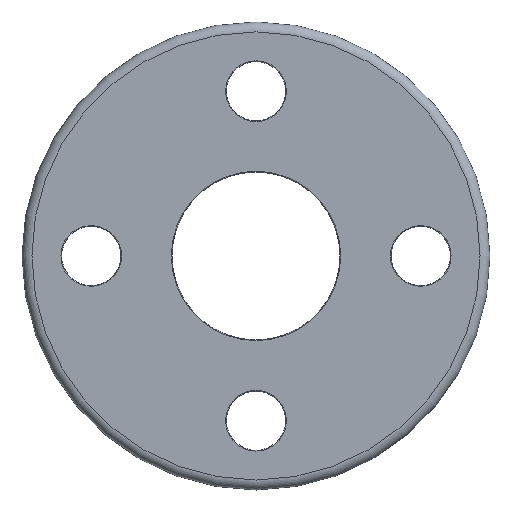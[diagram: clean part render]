
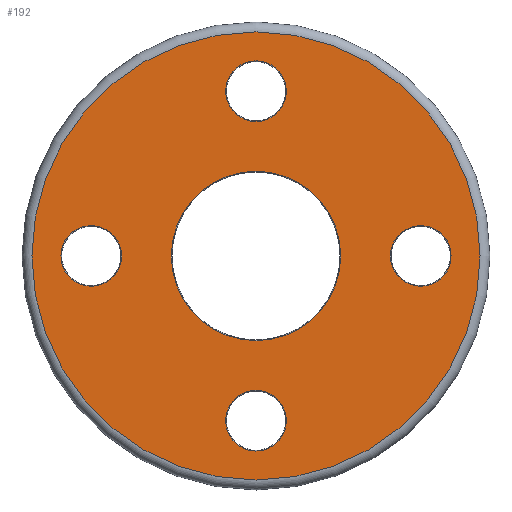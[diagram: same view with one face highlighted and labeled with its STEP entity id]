
A CAD part, top view. The second image highlights one B-rep face of the part: STEP entity #192.
In plain terms, the highlighted planar face has unit normal (0, 0, 1).
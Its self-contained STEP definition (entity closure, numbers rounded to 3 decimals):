
#21=PLANE('',#210);
#24=FACE_BOUND('',#62,.T.);
#25=FACE_BOUND('',#63,.T.);
#26=FACE_BOUND('',#64,.T.);
#27=FACE_BOUND('',#65,.T.);
#28=FACE_BOUND('',#66,.T.);
#46=FACE_OUTER_BOUND('',#61,.T.);
#61=EDGE_LOOP('',(#151));
#62=EDGE_LOOP('',(#152));
#63=EDGE_LOOP('',(#153));
#64=EDGE_LOOP('',(#154));
#65=EDGE_LOOP('',(#155));
#66=EDGE_LOOP('',(#156));
#96=CIRCLE('',#209,25.7);
#97=CIRCLE('',#211,68.);
#98=CIRCLE('',#212,9.2);
#99=CIRCLE('',#213,9.2);
#100=CIRCLE('',#214,9.2);
#101=CIRCLE('',#215,9.2);
#114=VERTEX_POINT('',#309);
#115=VERTEX_POINT('',#312);
#116=VERTEX_POINT('',#314);
#117=VERTEX_POINT('',#316);
#118=VERTEX_POINT('',#318);
#119=VERTEX_POINT('',#320);
#132=EDGE_CURVE('',#114,#114,#96,.T.);
#133=EDGE_CURVE('',#115,#115,#97,.T.);
#134=EDGE_CURVE('',#116,#116,#98,.T.);
#135=EDGE_CURVE('',#117,#117,#99,.T.);
#136=EDGE_CURVE('',#118,#118,#100,.T.);
#137=EDGE_CURVE('',#119,#119,#101,.T.);
#151=ORIENTED_EDGE('',*,*,#133,.F.);
#152=ORIENTED_EDGE('',*,*,#134,.F.);
#153=ORIENTED_EDGE('',*,*,#135,.F.);
#154=ORIENTED_EDGE('',*,*,#136,.F.);
#155=ORIENTED_EDGE('',*,*,#137,.F.);
#156=ORIENTED_EDGE('',*,*,#132,.F.);
#192=ADVANCED_FACE('',(#46,#24,#25,#26,#27,#28),#21,.T.);
#209=AXIS2_PLACEMENT_3D('',#310,#245,#246);
#210=AXIS2_PLACEMENT_3D('',#311,#247,#248);
#211=AXIS2_PLACEMENT_3D('',#313,#249,#250);
#212=AXIS2_PLACEMENT_3D('',#315,#251,#252);
#213=AXIS2_PLACEMENT_3D('',#317,#253,#254);
#214=AXIS2_PLACEMENT_3D('',#319,#255,#256);
#215=AXIS2_PLACEMENT_3D('',#321,#257,#258);
#245=DIRECTION('center_axis',(0.,0.,1.));
#246=DIRECTION('ref_axis',(-1.,0.,0.));
#247=DIRECTION('center_axis',(0.,0.,1.));
#248=DIRECTION('ref_axis',(1.,0.,0.));
#249=DIRECTION('center_axis',(0.,0.,-1.));
#250=DIRECTION('ref_axis',(-1.,0.,0.));
#251=DIRECTION('center_axis',(0.,0.,1.));
#252=DIRECTION('ref_axis',(1.,0.,0.));
#253=DIRECTION('center_axis',(0.,0.,1.));
#254=DIRECTION('ref_axis',(-1.,0.,0.));
#255=DIRECTION('center_axis',(0.,0.,1.));
#256=DIRECTION('ref_axis',(0.,-1.,0.));
#257=DIRECTION('center_axis',(0.,0.,1.));
#258=DIRECTION('ref_axis',(0.,1.,0.));
#309=CARTESIAN_POINT('',(25.7,0.,15.));
#310=CARTESIAN_POINT('Origin',(0.,0.,15.));
#311=CARTESIAN_POINT('Origin',(0.,0.,
15.));
#312=CARTESIAN_POINT('',(68.,0.,15.));
#313=CARTESIAN_POINT('Origin',(0.,0.,15.));
#314=CARTESIAN_POINT('',(-9.2,-50.,15.));
#315=CARTESIAN_POINT('Origin',(0.,-50.,15.));
#316=CARTESIAN_POINT('',(9.2,50.,15.));
#317=CARTESIAN_POINT('Origin',(0.,50.,15.));
#318=CARTESIAN_POINT('',(-50.,9.2,15.));
#319=CARTESIAN_POINT('Origin',(-50.,0.,15.));
#320=CARTESIAN_POINT('',(50.,-9.2,15.));
#321=CARTESIAN_POINT('Origin',(50.,0.,15.));
